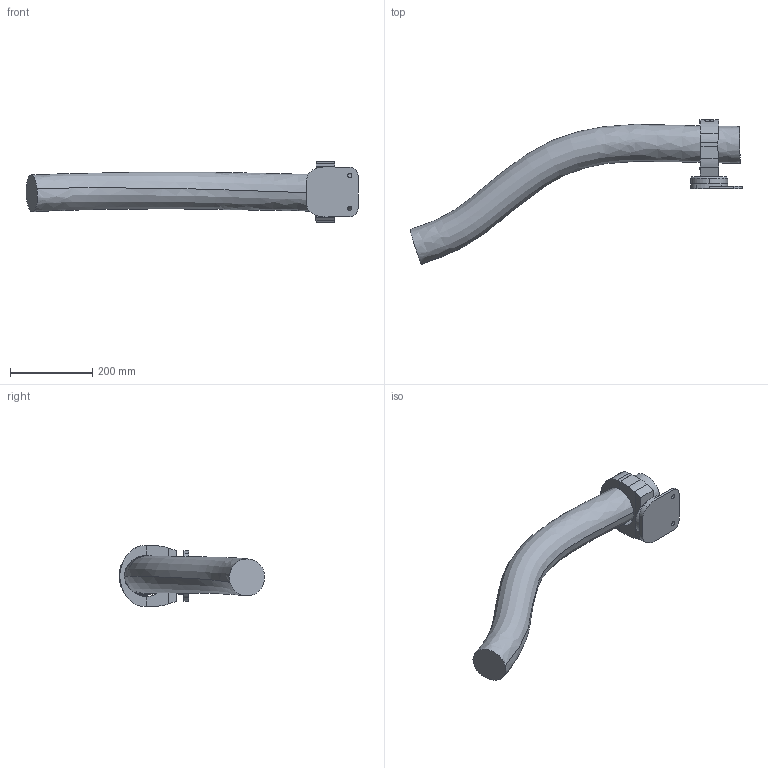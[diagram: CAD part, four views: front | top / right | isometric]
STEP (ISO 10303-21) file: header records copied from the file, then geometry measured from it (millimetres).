
FILE_DESCRIPTION (( 'STEP AP203' ), '1' );
FILE_NAME ('IRB6700_200_280_MH_CABLES_MH_link4.STEP', '2013-10-23T12:30:57', ( 'ABB' ), ( 'ABB' ), 'SwSTEP 2.0', 'SolidWorks 2012', '' );
FILE_SCHEMA (( 'CONFIG_CONTROL_DESIGN' ));
Length unit declared in the file: millimetre
Products named in the file (1): IRB6700_200_280_MH_CABLES_MH_link4
Bounding box: 806.66 x 353.04 x 148.11 mm (x, y, z)
Volume: 6137947.8 mm3; surface area: 354407.5 mm2
Topology: 1 solids, 5 shells, 108 faces, 268 edges, 172 vertices
Faces by surface type: plane 55, cylinder 39, bspline 7, cone 7
Entity records: 4863 total; most frequent: CARTESIAN_POINT 2251, ORIENTED_EDGE 536, DIRECTION 526, EDGE_CURVE 268, AXIS2_PLACEMENT_3D 199, VERTEX_POINT 172, LINE 128, VECTOR 128
